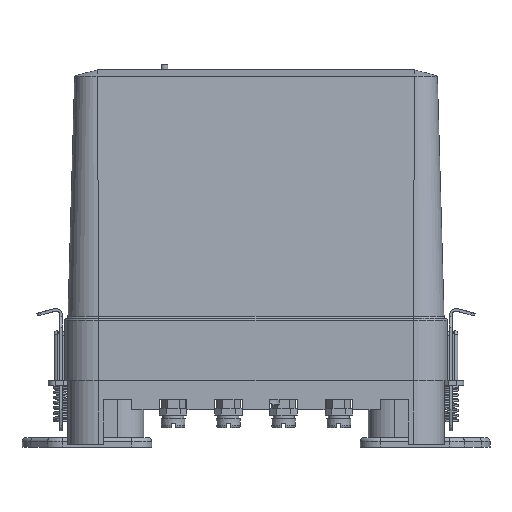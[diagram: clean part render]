
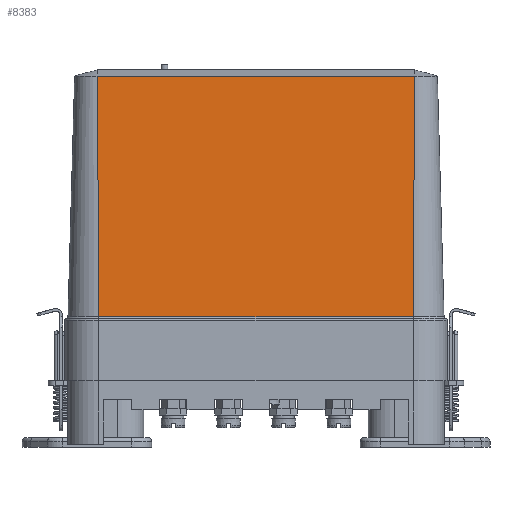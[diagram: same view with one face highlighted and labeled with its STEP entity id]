
A CAD part, left-side view. The second image highlights one B-rep face of the part: STEP entity #8383.
In plain terms, the highlighted planar face has unit normal (-1, 0, 0.028).
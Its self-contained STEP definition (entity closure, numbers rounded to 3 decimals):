
#8383=ADVANCED_FACE('',(#26575),#26577,.T.);
#26575=FACE_BOUND('',#26576,.T.);
#26576=EDGE_LOOP('',(#33336,#33337,#33338,#33339));
#26577=PLANE('',#26578);
#26578=AXIS2_PLACEMENT_3D('',#26579,#26580,#26581);
#26579=CARTESIAN_POINT('',(-30.,-46.,108.5));
#26580=DIRECTION('',(-1.,0.,0.028));
#26581=DIRECTION('',(0.,1.,0.));
#33336=ORIENTED_EDGE('',*,*,#36480,.T.);
#33337=ORIENTED_EDGE('',*,*,#36827,.F.);
#33338=ORIENTED_EDGE('',*,*,#36828,.T.);
#33339=ORIENTED_EDGE('',*,*,#36829,.T.);
#36480=EDGE_CURVE('',#40958,#40955,#40959,.T.);
#36827=EDGE_CURVE('',#41507,#40955,#41509,.T.);
#36828=EDGE_CURVE('',#41507,#41510,#41511,.T.);
#36829=EDGE_CURVE('',#41510,#40958,#41512,.T.);
#40955=VERTEX_POINT('',#51925);
#40958=VERTEX_POINT('',#51947);
#40959=LINE('',#51948,#51949);
#41507=VERTEX_POINT('',#53484);
#41509=LINE('',#53503,#53504);
#41510=VERTEX_POINT('',#53506);
#41511=LINE('',#53507,#53508);
#41512=LINE('',#53510,#53511);
#51925=CARTESIAN_POINT('',(-31.986,-45.503,36.986));
#51947=CARTESIAN_POINT('',(-31.986,45.503,36.986));
#51948=CARTESIAN_POINT('',(-31.986,45.503,36.986));
#51949=VECTOR('',#51950,1.);
#51950=DIRECTION('',(0.,-1.,0.));
#53484=CARTESIAN_POINT('',(-30.049,-45.988,106.751));
#53503=CARTESIAN_POINT('',(-30.049,-45.988,106.751));
#53504=VECTOR('',#53505,1.);
#53505=DIRECTION('',(-0.028,0.007,-1.));
#53506=CARTESIAN_POINT('',(-30.049,45.988,106.751));
#53507=CARTESIAN_POINT('',(-30.049,-45.988,106.751));
#53508=VECTOR('',#53509,1.);
#53509=DIRECTION('',(0.,1.,0.));
#53510=CARTESIAN_POINT('',(-30.049,45.988,106.751));
#53511=VECTOR('',#53512,1.);
#53512=DIRECTION('',(-0.028,-0.007,-1.));
